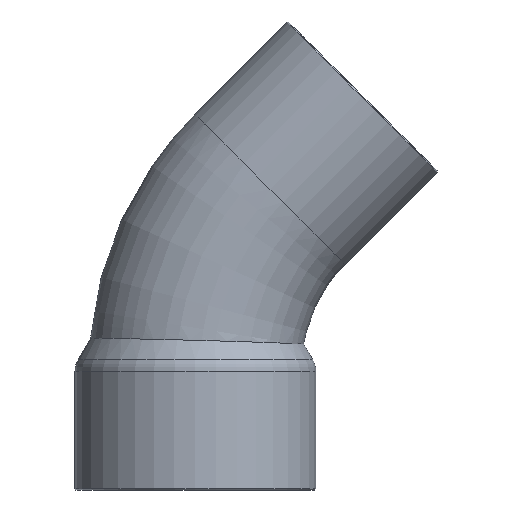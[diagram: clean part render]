
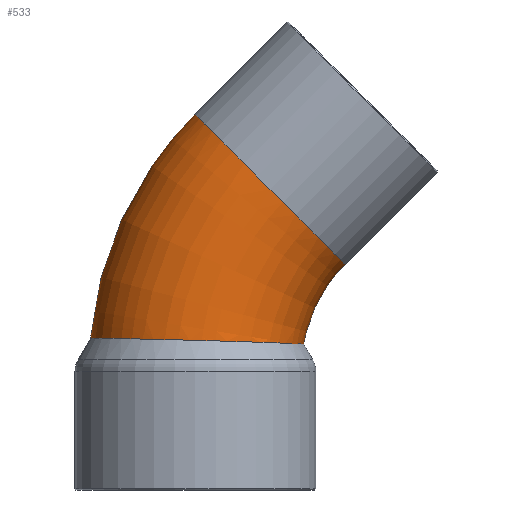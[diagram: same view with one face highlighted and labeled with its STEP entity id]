
A CAD part, left-side view. The second image highlights one B-rep face of the part: STEP entity #533.
In plain terms, the highlighted toroidal (fillet/blend) face has major radius 49.5 mm and minor radius 20.635 mm.
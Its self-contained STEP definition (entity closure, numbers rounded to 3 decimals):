
#184=CARTESIAN_POINT('',(20.635,35.002,35.002));
#185=VERTEX_POINT('',#184);
#186=CARTESIAN_POINT('',(0.0,35.002,35.002));
#187=DIRECTION('',(0.0,0.707,-0.707));
#188=DIRECTION('',(-1.0,0.0,0.0));
#189=AXIS2_PLACEMENT_3D('',#186,#187,#188);
#190=CIRCLE('',#189,20.635);
#191=EDGE_CURVE('',#185,#185,#190,.T.);
#382=CARTESIAN_POINT('',(0.,69.874,6.049));
#383=VERTEX_POINT('',#382);
#384=CARTESIAN_POINT('',(0.,69.874,6.049));
#385=CARTESIAN_POINT('',(-1.48,69.874,6.049));
#386=CARTESIAN_POINT('',(-2.955,69.714,6.046));
#387=CARTESIAN_POINT('',(-5.815,69.088,6.034));
#388=CARTESIAN_POINT('',(-7.193,68.631,6.026));
#389=CARTESIAN_POINT('',(-10.996,66.905,5.993));
#390=CARTESIAN_POINT('',(-13.232,65.295,5.962));
#391=CARTESIAN_POINT('',(-16.95,61.299,5.88));
#392=CARTESIAN_POINT('',(-18.394,58.952,5.83));
#393=CARTESIAN_POINT('',(-20.293,53.83,5.711));
#394=CARTESIAN_POINT('',(-20.726,51.104,5.644));
#395=CARTESIAN_POINT('',(-20.512,45.629,5.496));
#396=CARTESIAN_POINT('',(-19.862,42.932,5.416));
#397=CARTESIAN_POINT('',(-17.59,38.03,5.258));
#398=CARTESIAN_POINT('',(-16.02,35.854,5.18));
#399=CARTESIAN_POINT('',(-12.082,32.158,5.038));
#400=CARTESIAN_POINT('',(-9.727,30.696,4.976));
#401=CARTESIAN_POINT('',(-5.675,29.188,4.911));
#402=CARTESIAN_POINT('',(-4.136,28.809,4.894));
#403=CARTESIAN_POINT('',(-1.541,28.482,4.879));
#404=CARTESIAN_POINT('',(-0.505,28.43,4.876));
#405=CARTESIAN_POINT('',(1.655,28.486,4.879));
#406=CARTESIAN_POINT('',(2.774,28.607,4.884));
#407=CARTESIAN_POINT('',(6.076,29.244,4.913));
#408=CARTESIAN_POINT('',(8.19,30.024,4.948));
#409=CARTESIAN_POINT('',(12.514,32.477,5.05));
#410=CARTESIAN_POINT('',(14.598,34.284,5.122));
#411=CARTESIAN_POINT('',(17.867,38.498,5.273));
#412=CARTESIAN_POINT('',(19.062,40.835,5.351));
#413=CARTESIAN_POINT('',(20.505,45.752,5.499));
#414=CARTESIAN_POINT('',(20.768,48.284,5.569));
#415=CARTESIAN_POINT('',(20.376,53.305,5.699));
#416=CARTESIAN_POINT('',(19.728,55.755,5.757));
#417=CARTESIAN_POINT('',(17.572,60.327,5.859));
#418=CARTESIAN_POINT('',(16.075,62.407,5.903));
#419=CARTESIAN_POINT('',(12.362,65.954,5.975));
#420=CARTESIAN_POINT('',(10.166,67.376,6.002));
#421=CARTESIAN_POINT('',(5.298,69.358,6.039));
#422=CARTESIAN_POINT('',(2.662,69.874,6.049));
#423=CARTESIAN_POINT('',(0.0,69.874,6.049));
#424=B_SPLINE_CURVE_WITH_KNOTS('',3,(#384,#385,#386,#387,#388,#389,#390,#391,#392,#393,#394,#395,#396,#397,#398,#399,#400,#401,#402,#403,#404,#405,#406,#407,#408,#409,#410,#411,#412,#413,#414,#415,#416,#417,#418,#419,#420,#421,#422,#423),.UNSPECIFIED.,.T.,.U.,(4,2,2,2,2,2,2,2,2,2,2,2,2,2,2,2,2,2,2,4),(-13.025,-12.582,-12.147,-11.329,-10.51,-9.69,-8.866,-8.068,-7.245,-6.771,-6.46,-6.123,-5.451,-4.631,-3.85,-3.093,-2.339,-1.577,-0.799,0.0),.UNSPECIFIED.);
#425=EDGE_CURVE('',#383,#383,#424,.T.);
#522=CARTESIAN_POINT('',(0.0,0.0,0.0));
#523=DIRECTION('',(1.0,0.0,0.0));
#524=DIRECTION('',(0.0,0.0,-1.0));
#525=AXIS2_PLACEMENT_3D('',#522,#523,#524);
#526=TOROIDAL_SURFACE('',#525,49.5,20.635);
#527=ORIENTED_EDGE('',*,*,#191,.T.);
#528=EDGE_LOOP('',(#527));
#529=FACE_OUTER_BOUND('',#528,.T.);
#530=ORIENTED_EDGE('',*,*,#425,.T.);
#531=EDGE_LOOP('',(#530));
#532=FACE_BOUND('',#531,.T.);
#533=ADVANCED_FACE('',(#529,#532),#526,.T.);
